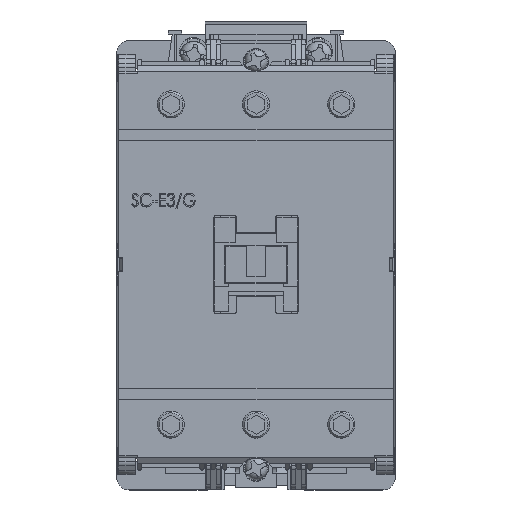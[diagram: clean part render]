
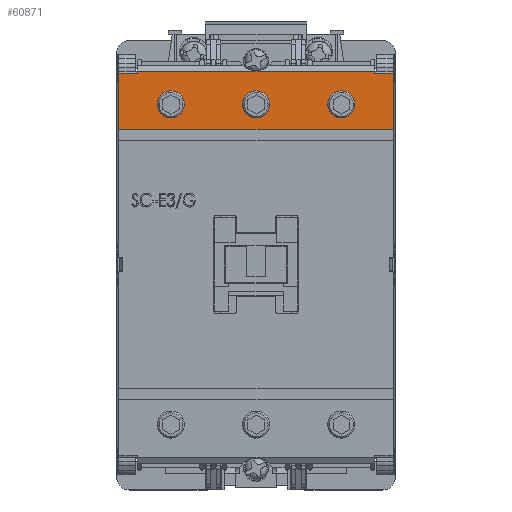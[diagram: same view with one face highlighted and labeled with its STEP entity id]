
A CAD part, top view. The second image highlights one B-rep face of the part: STEP entity #60871.
In plain terms, the highlighted planar face has unit normal (0, 0, 1).
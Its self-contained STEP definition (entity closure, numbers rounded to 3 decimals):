
#1745 = ORIENTED_EDGE ( 'NONE', *, *, #57156, .F. ) ;
#4127 = CARTESIAN_POINT ( 'NONE',  ( 28.5, 46.5, 10.1 ) ) ;
#5326 = CARTESIAN_POINT ( 'NONE',  ( 0., 38.5, 10.1 ) ) ;
#5444 = CARTESIAN_POINT ( 'NONE',  ( -33., 46., 10.1 ) ) ;
#5680 = AXIS2_PLACEMENT_3D ( 'NONE', #60990, #26100, #66873 ) ;
#6233 = CARTESIAN_POINT ( 'NONE',  ( -33., 46., 10.1 ) ) ;
#8046 = CARTESIAN_POINT ( 'NONE',  ( -33., 46., 10.1 ) ) ;
#8626 = EDGE_CURVE ( 'NONE', #21889, #21889, #17135, .T. ) ;
#8644 = ORIENTED_EDGE ( 'NONE', *, *, #41390, .F. ) ;
#9773 = EDGE_CURVE ( 'NONE', #25439, #52130, #56291, .T. ) ;
#10870 = CARTESIAN_POINT ( 'NONE',  ( -28.5, 46.5, 10.1 ) ) ;
#11183 = DIRECTION ( 'NONE',  ( 1., 0., 0. ) ) ;
#13095 = VECTOR ( 'NONE', #74313, 1000. ) ;
#13502 = FACE_BOUND ( 'NONE', #31867, .T. ) ;
#15259 = AXIS2_PLACEMENT_3D ( 'NONE', #34721, #75538, #40586 ) ;
#15382 = CARTESIAN_POINT ( 'NONE',  ( 33., 46., 10.1 ) ) ;
#17135 = CIRCLE ( 'NONE', #5680, 3.25 ) ;
#17236 = DIRECTION ( 'NONE',  ( 0., -1., 0. ) ) ;
#19323 = CARTESIAN_POINT ( 'NONE',  ( 33., 46., 10.1 ) ) ;
#20185 = VECTOR ( 'NONE', #62842, 1000. ) ;
#20420 = LINE ( 'NONE', #45850, #34057 ) ;
#20820 = LINE ( 'NONE', #36673, #49994 ) ;
#21818 = CARTESIAN_POINT ( 'NONE',  ( -28.5, 46.5, 10.1 ) ) ;
#21889 = VERTEX_POINT ( 'NONE', #48211 ) ;
#22156 = CARTESIAN_POINT ( 'NONE',  ( 28.5, 46., 10.1 ) ) ;
#22760 = VERTEX_POINT ( 'NONE', #48968 ) ;
#23088 = EDGE_LOOP ( 'NONE', ( #1745, #64733, #46089, #41245, #42998, #52816, #60755, #8644, #61615 ) ) ;
#23745 = VECTOR ( 'NONE', #71120, 1000. ) ;
#24174 = EDGE_CURVE ( 'NONE', #57036, #37174, #20820, .T. ) ;
#25439 = VERTEX_POINT ( 'NONE', #22156 ) ;
#26100 = DIRECTION ( 'NONE',  ( 0., 0., 1. ) ) ;
#26631 = CARTESIAN_POINT ( 'NONE',  ( -33., 32.5, 10.1 ) ) ;
#26893 = LINE ( 'NONE', #27683, #13095 ) ;
#27683 = CARTESIAN_POINT ( 'NONE',  ( -8., 46.5, 10.1 ) ) ;
#28693 = PLANE ( 'NONE',  #44636 ) ;
#31867 = EDGE_LOOP ( 'NONE', ( #68097 ) ) ;
#32859 = VERTEX_POINT ( 'NONE', #47609 ) ;
#34057 = VECTOR ( 'NONE', #69299, 1000. ) ;
#34721 = CARTESIAN_POINT ( 'NONE',  ( -20.5, 38.5, 10.1 ) ) ;
#35133 = AXIS2_PLACEMENT_3D ( 'NONE', #5326, #46185, #11183 ) ;
#35667 = LINE ( 'NONE', #21818, #20185 ) ;
#36673 = CARTESIAN_POINT ( 'NONE',  ( -8., 46.5, 10.1 ) ) ;
#37174 = VERTEX_POINT ( 'NONE', #4127 ) ;
#37211 = EDGE_CURVE ( 'NONE', #41354, #71997, #35667, .T. ) ;
#38258 = VERTEX_POINT ( 'NONE', #6233 ) ;
#38372 = CARTESIAN_POINT ( 'NONE',  ( 0., 46.5, 10.1 ) ) ;
#38680 = VECTOR ( 'NONE', #56018, 1000. ) ;
#39189 = LINE ( 'NONE', #47665, #23745 ) ;
#40586 = DIRECTION ( 'NONE',  ( 1., 0., 0. ) ) ;
#41245 = ORIENTED_EDGE ( 'NONE', *, *, #69741, .T. ) ;
#41354 = VERTEX_POINT ( 'NONE', #10870 ) ;
#41390 = EDGE_CURVE ( 'NONE', #37174, #25439, #20420, .T. ) ;
#42545 = DIRECTION ( 'NONE',  ( 1., 0., 0. ) ) ;
#42591 = EDGE_CURVE ( 'NONE', #72946, #72946, #57707, .T. ) ;
#42594 = VECTOR ( 'NONE', #48900, 1000. ) ;
#42998 = ORIENTED_EDGE ( 'NONE', *, *, #44149, .T. ) ;
#44028 = VECTOR ( 'NONE', #56164, 1000. ) ;
#44149 = EDGE_CURVE ( 'NONE', #59524, #32859, #39189, .T. ) ;
#44636 = AXIS2_PLACEMENT_3D ( 'NONE', #5444, #52125, #17236 ) ;
#45850 = CARTESIAN_POINT ( 'NONE',  ( 28.5, 46.5, 10.1 ) ) ;
#46089 = ORIENTED_EDGE ( 'NONE', *, *, #70597, .F. ) ;
#46185 = DIRECTION ( 'NONE',  ( 0., 0., 1. ) ) ;
#46316 = ORIENTED_EDGE ( 'NONE', *, *, #8626, .F. ) ;
#47609 = CARTESIAN_POINT ( 'NONE',  ( 33., 32.5, 10.1 ) ) ;
#47665 = CARTESIAN_POINT ( 'NONE',  ( -33., 32.5, 10.1 ) ) ;
#48211 = CARTESIAN_POINT ( 'NONE',  ( 23.75, 38.5, 10.1 ) ) ;
#48699 = CARTESIAN_POINT ( 'NONE',  ( 3.25, 38.5, 10.1 ) ) ;
#48900 = DIRECTION ( 'NONE',  ( 1., 0., 0. ) ) ;
#48968 = CARTESIAN_POINT ( 'NONE',  ( -17.25, 38.5, 10.1 ) ) ;
#49994 = VECTOR ( 'NONE', #42545, 1000. ) ;
#50415 = LINE ( 'NONE', #58435, #64091 ) ;
#52125 = DIRECTION ( 'NONE',  ( 0., 0., 1. ) ) ;
#52130 = VERTEX_POINT ( 'NONE', #19323 ) ;
#52816 = ORIENTED_EDGE ( 'NONE', *, *, #52854, .F. ) ;
#52854 = EDGE_CURVE ( 'NONE', #52130, #32859, #57685, .T. ) ;
#56018 = DIRECTION ( 'NONE',  ( 0., -1., 0. ) ) ;
#56164 = DIRECTION ( 'NONE',  ( 0., -1., 0. ) ) ;
#56291 = LINE ( 'NONE', #8046, #42594 ) ;
#57036 = VERTEX_POINT ( 'NONE', #38372 ) ;
#57156 = EDGE_CURVE ( 'NONE', #41354, #57036, #26893, .T. ) ;
#57685 = LINE ( 'NONE', #15382, #44028 ) ;
#57707 = CIRCLE ( 'NONE', #35133, 3.25 ) ;
#58262 = FACE_OUTER_BOUND ( 'NONE', #23088, .T. ) ;
#58435 = CARTESIAN_POINT ( 'NONE',  ( -33., 46., 10.1 ) ) ;
#59524 = VERTEX_POINT ( 'NONE', #26631 ) ;
#59642 = EDGE_CURVE ( 'NONE', #22760, #22760, #72133, .T. ) ;
#60068 = FACE_BOUND ( 'NONE', #68632, .T. ) ;
#60755 = ORIENTED_EDGE ( 'NONE', *, *, #9773, .F. ) ;
#60871 = ADVANCED_FACE ( 'NONE', ( #58262, #60068, #13502, #73771 ), #28693, .T. ) ;
#60990 = CARTESIAN_POINT ( 'NONE',  ( 20.5, 38.5, 10.1 ) ) ;
#61615 = ORIENTED_EDGE ( 'NONE', *, *, #24174, .F. ) ;
#62799 = EDGE_LOOP ( 'NONE', ( #74054 ) ) ;
#62842 = DIRECTION ( 'NONE',  ( 0., -1., 0. ) ) ;
#64091 = VECTOR ( 'NONE', #70179, 1000. ) ;
#64733 = ORIENTED_EDGE ( 'NONE', *, *, #37211, .T. ) ;
#66873 = DIRECTION ( 'NONE',  ( 1., 0., 0. ) ) ;
#67772 = CARTESIAN_POINT ( 'NONE',  ( -33., 46., 10.1 ) ) ;
#67947 = CARTESIAN_POINT ( 'NONE',  ( -28.5, 46., 10.1 ) ) ;
#68097 = ORIENTED_EDGE ( 'NONE', *, *, #59642, .F. ) ;
#68632 = EDGE_LOOP ( 'NONE', ( #46316 ) ) ;
#69299 = DIRECTION ( 'NONE',  ( 0., -1., 0. ) ) ;
#69731 = LINE ( 'NONE', #67772, #38680 ) ;
#69741 = EDGE_CURVE ( 'NONE', #38258, #59524, #69731, .T. ) ;
#70179 = DIRECTION ( 'NONE',  ( 1., 0., 0. ) ) ;
#70597 = EDGE_CURVE ( 'NONE', #38258, #71997, #50415, .T. ) ;
#71120 = DIRECTION ( 'NONE',  ( 1., 0., 0. ) ) ;
#71997 = VERTEX_POINT ( 'NONE', #67947 ) ;
#72133 = CIRCLE ( 'NONE', #15259, 3.25 ) ;
#72946 = VERTEX_POINT ( 'NONE', #48699 ) ;
#73771 = FACE_BOUND ( 'NONE', #62799, .T. ) ;
#74054 = ORIENTED_EDGE ( 'NONE', *, *, #42591, .F. ) ;
#74313 = DIRECTION ( 'NONE',  ( 1., 0., 0. ) ) ;
#75538 = DIRECTION ( 'NONE',  ( 0., 0., 1. ) ) ;
